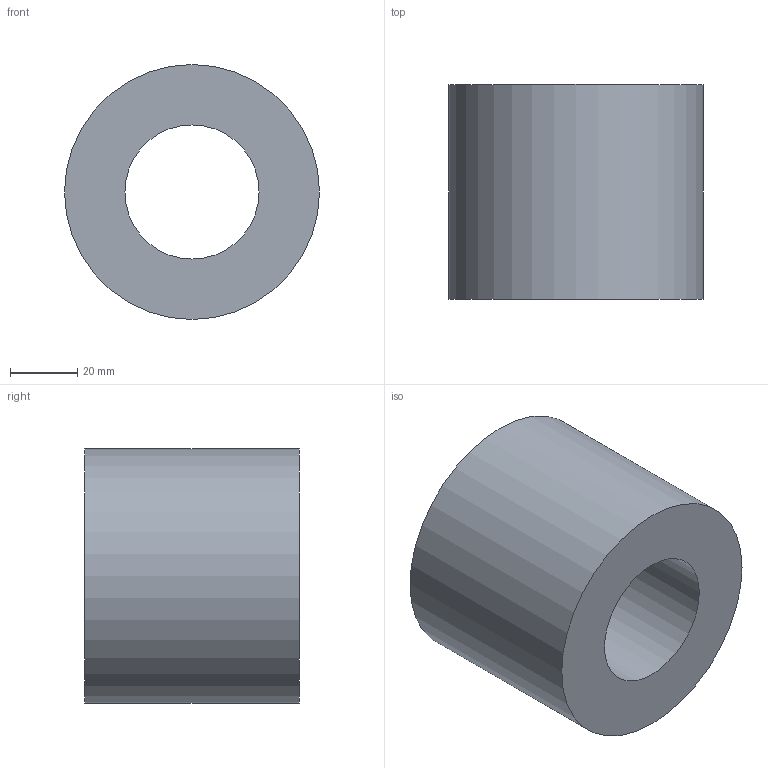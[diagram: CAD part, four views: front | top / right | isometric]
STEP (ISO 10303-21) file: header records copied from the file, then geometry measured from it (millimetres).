
FILE_DESCRIPTION(('Open CASCADE Model'),'2;1');
FILE_NAME('Open CASCADE Shape Model','2026-10-17T16:45:04',('Author'),( 'Open CASCADE'),'Open CASCADE STEP processor 8.0','build123d', 'Unknown');
FILE_SCHEMA(('AUTOMOTIVE_DESIGN { 1 0 10303 214 1 1 1 1 }'));
Length unit declared in the file: millimetre
Products named in the file (1): COMPOUND
Bounding box: 76 x 64 x 76 mm (x, y, z)
Volume: 209908.7 mm3; surface area: 29882.8 mm2
Topology: 1 solids, 1 shells, 4 faces, 6 edges, 4 vertices
Faces by surface type: cylinder 2, plane 2
Full cylindrical faces by diameter (mm): 40 x1, 76 x1
Entity records: 186 total; most frequent: DIRECTION 32, CARTESIAN_POINT 27, ORIENTED_EDGE 12, PCURVE 12, DEFINITIONAL_REPRESENTATION 12, LINE 10, VECTOR 10, AXIS2_PLACEMENT_3D 9
